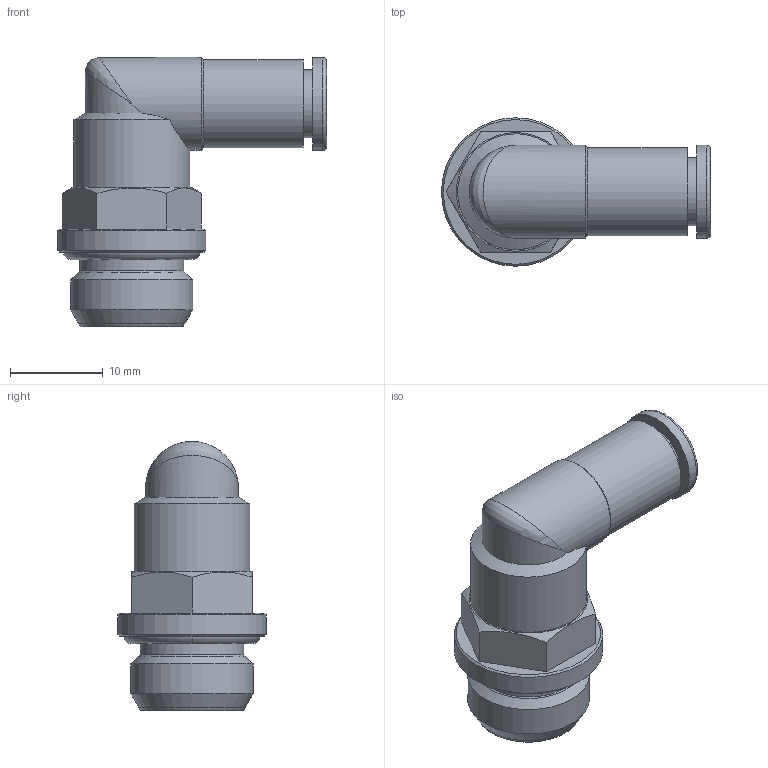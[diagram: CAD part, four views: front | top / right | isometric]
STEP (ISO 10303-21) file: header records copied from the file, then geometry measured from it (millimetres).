
FILE_DESCRIPTION(('Bauteilbeschreibung','HiCAD-Model','HiCAD-STEP-TRANSLATION','Bauteilbeschreibung'),'2;1');
FILE_NAME('B:/ABGLEICH/ZEICHNUNGEN/STEP FÜR INTERNET/STEP/IPSO 022/202230_IPSO_022_5_1-4.STP','2012-02-06T13:11:01+00:00',('Konstrukteur'),('Konstrukteur Firma GmbH'),' HiCAD neXt 2008, Step 3.1.1401.2J ','HiCAD neXt 2008','confidential');
FILE_SCHEMA(('AUTOMOTIVE_DESIGN { 1 2 10303 214 0 1 1 1 }'));
Length unit declared in the file: millimetre
Products named in the file (7): A02230_IPSO_022_5_1_4; OR 11_11X1_78; DR5_1; R202228_N2; A14603_N2_GEW__1_8_1_4; A146030N20GEW001080104; G 1_4
Assembly tree (6 placements, depth 3):
  A02230_IPSO_022_5_1_4
    OR 11_11X1_78
    DR5_1
    R202228_N2
    A14603_N2_GEW__1_8_1_4
    A146030N20GEW001080104
      G 1_4
Bounding box: 29 x 16 x 29 mm (x, y, z)
Volume: 3078.8 mm3; surface area: 4429.4 mm2
Topology: 5 solids, 5 shells, 77 faces, 167 edges, 102 vertices
Faces by surface type: cylinder 24, plane 21, cone 21, torus 10, bspline 1
Full cylindrical faces by diameter (mm): 3.501 x1, 5.1 x1, 5.2 x1, 5.5 x2, 6 x2, 7.3 x1, 7.5 x1, 8.5 x1, 9 x2, 9.5 x1, 10 x2, 10.1 x2, 11.2 x1, 11.445 x2, 12.5 x1, 13.157 x1, 16 x1
Entity records: 3405 total; most frequent: CARTESIAN_POINT 1411, DIRECTION 334, ORIENTED_EDGE 194, AXIS2_PLACEMENT_3D 161, EDGE_LOOP 141, EDGE_CURVE 97, COLOUR_RGB 88, PRESENTATION_STYLE_ASSIGNMENT 88
